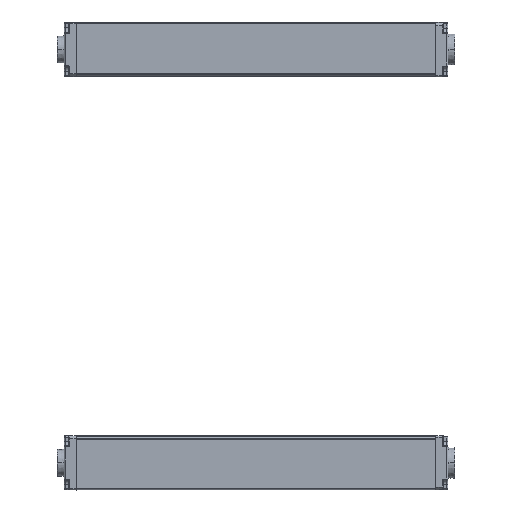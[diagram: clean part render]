
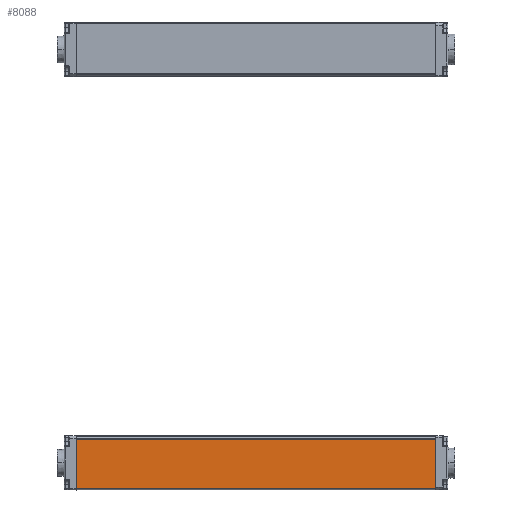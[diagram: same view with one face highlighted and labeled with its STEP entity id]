
A CAD part, left-side view. The second image highlights one B-rep face of the part: STEP entity #8088.
In plain terms, the highlighted planar face has unit normal (-1, 0, -0.009) as drawn and (1, 0, 0) by its records, which use the part's own axes.
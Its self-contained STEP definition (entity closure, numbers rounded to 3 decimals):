
#1148 = EDGE_LOOP ( 'NONE', ( #2565, #4307, #5657, #3233 ) ) ;
#2308 = VECTOR ( 'NONE', #17139, 1000. ) ;
#2565 = ORIENTED_EDGE ( 'NONE', *, *, #3213, .T. ) ;
#2901 = DIRECTION ( 'NONE',  ( 0., 0., -1. ) ) ;
#3144 = CARTESIAN_POINT ( 'NONE',  ( 15., 0., -16.693 ) ) ;
#3213 = EDGE_CURVE ( 'NONE', #12858, #5717, #9799, .T. ) ;
#3233 = ORIENTED_EDGE ( 'NONE', *, *, #13443, .T. ) ;
#4160 = CARTESIAN_POINT ( 'NONE',  ( 15., 200., -16.693 ) ) ;
#4307 = ORIENTED_EDGE ( 'NONE', *, *, #12774, .T. ) ;
#4529 = CARTESIAN_POINT ( 'NONE',  ( 15., 200., -16.693 ) ) ;
#4840 = CARTESIAN_POINT ( 'NONE',  ( 15., 200., 10.9 ) ) ;
#4858 = CARTESIAN_POINT ( 'NONE',  ( 15., 200., -16.9 ) ) ;
#5456 = CARTESIAN_POINT ( 'NONE',  ( 15., 200., -16.9 ) ) ;
#5657 = ORIENTED_EDGE ( 'NONE', *, *, #16568, .F. ) ;
#5717 = VERTEX_POINT ( 'NONE', #3144 ) ;
#6018 = LINE ( 'NONE', #11591, #2308 ) ;
#8088 = ADVANCED_FACE ( 'NONE', ( #11787 ), #17341, .F. ) ;
#8517 = CARTESIAN_POINT ( 'NONE',  ( 15., 0., 10.9 ) ) ;
#9041 = VECTOR ( 'NONE', #9706, 1000. ) ;
#9533 = VECTOR ( 'NONE', #11014, 1000. ) ;
#9706 = DIRECTION ( 'NONE',  ( 0., 1., 0. ) ) ;
#9799 = LINE ( 'NONE', #15357, #16154 ) ;
#10414 = DIRECTION ( 'NONE',  ( -1., 0., 0. ) ) ;
#11014 = DIRECTION ( 'NONE',  ( 0., 0., -1. ) ) ;
#11591 = CARTESIAN_POINT ( 'NONE',  ( 15., 200., 10.9 ) ) ;
#11787 = FACE_OUTER_BOUND ( 'NONE', #1148, .T. ) ;
#12774 = EDGE_CURVE ( 'NONE', #5717, #15433, #16618, .T. ) ;
#12858 = VERTEX_POINT ( 'NONE', #8517 ) ;
#13443 = EDGE_CURVE ( 'NONE', #13508, #12858, #6018, .T. ) ;
#13508 = VERTEX_POINT ( 'NONE', #4840 ) ;
#15108 = AXIS2_PLACEMENT_3D ( 'NONE', #4858, #10414, #15959 ) ;
#15357 = CARTESIAN_POINT ( 'NONE',  ( 15., 0., -16.9 ) ) ;
#15433 = VERTEX_POINT ( 'NONE', #4529 ) ;
#15959 = DIRECTION ( 'NONE',  ( 0., 0., 1. ) ) ;
#16154 = VECTOR ( 'NONE', #2901, 1000. ) ;
#16568 = EDGE_CURVE ( 'NONE', #13508, #15433, #17936, .T. ) ;
#16618 = LINE ( 'NONE', #4160, #9041 ) ;
#17139 = DIRECTION ( 'NONE',  ( 0., -1., 0. ) ) ;
#17341 = PLANE ( 'NONE',  #15108 ) ;
#17936 = LINE ( 'NONE', #5456, #9533 ) ;
